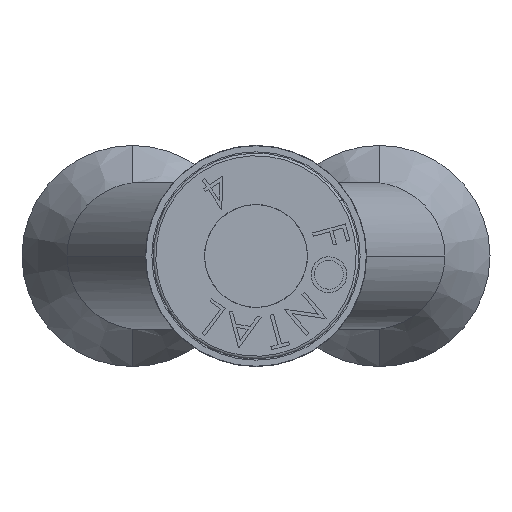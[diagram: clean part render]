
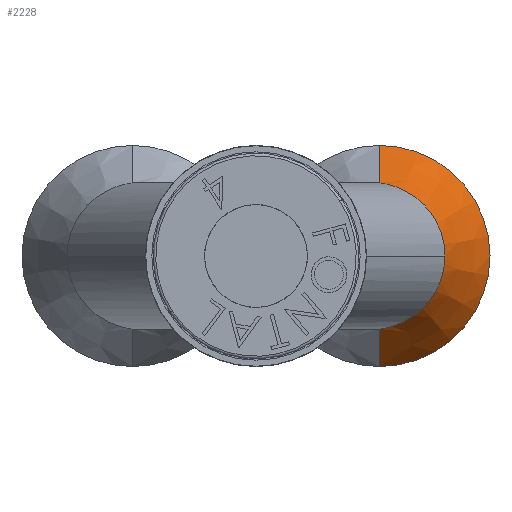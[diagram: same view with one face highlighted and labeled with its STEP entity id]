
A CAD part, front view. The second image highlights one B-rep face of the part: STEP entity #2228.
In plain terms, the highlighted conical face has half-angle 27 degrees and reference radius 4.3 mm.
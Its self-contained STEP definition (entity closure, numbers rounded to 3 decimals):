
#59 = CARTESIAN_POINT ( 'NONE',  ( 6.326, 14.696, -2.666 ) ) ;
#210 = ORIENTED_EDGE ( 'NONE', *, *, #3517, .T. ) ;
#330 = VERTEX_POINT ( 'NONE', #2934 ) ;
#436 = EDGE_CURVE ( 'NONE', #3813, #4718, #1933, .T. ) ;
#756 = DIRECTION ( 'NONE',  ( 0., 0., -1. ) ) ;
#778 = VECTOR ( 'NONE', #5505, 1000. ) ;
#791 = DIRECTION ( 'NONE',  ( 0., 0.891, 0.454 ) ) ;
#838 = ORIENTED_EDGE ( 'NONE', *, *, #436, .F. ) ;
#896 = CARTESIAN_POINT ( 'NONE',  ( 7.348, 14.465, 0. ) ) ;
#918 = LINE ( 'NONE', #2808, #778 ) ;
#977 = CARTESIAN_POINT ( 'NONE',  ( 7.348, 14.465, -1.526 ) ) ;
#1188 = CARTESIAN_POINT ( 'NONE',  ( 4.8, 17.903, 0. ) ) ;
#1428 = CARTESIAN_POINT ( 'NONE',  ( 4.8, 15.04, -2.841 ) ) ;
#1469 = ORIENTED_EDGE ( 'NONE', *, *, #3028, .F. ) ;
#1505 = CARTESIAN_POINT ( 'NONE',  ( 4.8, 17.903, 4.3 ) ) ;
#1510 = EDGE_CURVE ( 'NONE', #4718, #5458, #4684, .T. ) ;
#1600 = CARTESIAN_POINT ( 'NONE',  ( 7.348, 14.465, 0. ) ) ;
#1615 = DIRECTION ( 'NONE',  ( 0., 1., 0. ) ) ;
#1681 = DIRECTION ( 'NONE',  ( 0., 1., 0. ) ) ;
#1933 = LINE ( 'NONE', #4904, #3499 ) ;
#1997 =( BOUNDED_CURVE ( )  B_SPLINE_CURVE ( 3, ( #1600, #2004, #4774, #3796 ),
 .UNSPECIFIED., .F., .T. ) 
 B_SPLINE_CURVE_WITH_KNOTS ( ( 4, 4 ),
 ( 3.142, 4.597 ),
 .UNSPECIFIED. ) 
 CURVE ( )  GEOMETRIC_REPRESENTATION_ITEM ( )  RATIONAL_B_SPLINE_CURVE ( ( 1., 0.831, 0.831, 1. ) ) 
 REPRESENTATION_ITEM ( '' )  );
#2004 = CARTESIAN_POINT ( 'NONE',  ( 7.348, 14.465, 1.526 ) ) ;
#2050 = FACE_OUTER_BOUND ( 'NONE', #3273, .T. ) ;
#2228 = ADVANCED_FACE ( 'NONE', ( #2050 ), #5395, .T. ) ;
#2808 = CARTESIAN_POINT ( 'NONE',  ( 4.8, 17.903, -4.3 ) ) ;
#2934 = CARTESIAN_POINT ( 'NONE',  ( 7.348, 14.465, 0. ) ) ;
#3028 = EDGE_CURVE ( 'NONE', #4726, #330, #3059, .T. ) ;
#3059 =( BOUNDED_CURVE ( )  B_SPLINE_CURVE ( 3, ( #1428, #59, #977, #896 ),
 .UNSPECIFIED., .F., .T. ) 
 B_SPLINE_CURVE_WITH_KNOTS ( ( 4, 4 ),
 ( 1.686, 3.142 ),
 .UNSPECIFIED. ) 
 CURVE ( )  GEOMETRIC_REPRESENTATION_ITEM ( )  RATIONAL_B_SPLINE_CURVE ( ( 1., 0.831, 0.831, 1. ) ) 
 REPRESENTATION_ITEM ( '' )  );
#3273 = EDGE_LOOP ( 'NONE', ( #1469, #210, #4875, #838, #4588 ) ) ;
#3499 = VECTOR ( 'NONE', #791, 1000. ) ;
#3517 = EDGE_CURVE ( 'NONE', #4726, #5458, #918, .T. ) ;
#3702 = CARTESIAN_POINT ( 'NONE',  ( 4.8, 15.04, -2.841 ) ) ;
#3796 = CARTESIAN_POINT ( 'NONE',  ( 4.8, 15.04, 2.841 ) ) ;
#3813 = VERTEX_POINT ( 'NONE', #4512 ) ;
#3838 = AXIS2_PLACEMENT_3D ( 'NONE', #5831, #1681, #4866 ) ;
#4196 = EDGE_CURVE ( 'NONE', #330, #3813, #1997, .T. ) ;
#4390 = CARTESIAN_POINT ( 'NONE',  ( 4.8, 17.903, -4.3 ) ) ;
#4512 = CARTESIAN_POINT ( 'NONE',  ( 4.8, 15.04, 2.841 ) ) ;
#4588 = ORIENTED_EDGE ( 'NONE', *, *, #4196, .F. ) ;
#4670 = AXIS2_PLACEMENT_3D ( 'NONE', #1188, #1615, #756 ) ;
#4684 = CIRCLE ( 'NONE', #4670, 4.3 ) ;
#4718 = VERTEX_POINT ( 'NONE', #1505 ) ;
#4726 = VERTEX_POINT ( 'NONE', #3702 ) ;
#4774 = CARTESIAN_POINT ( 'NONE',  ( 6.326, 14.696, 2.666 ) ) ;
#4866 = DIRECTION ( 'NONE',  ( 0., 0., 1. ) ) ;
#4875 = ORIENTED_EDGE ( 'NONE', *, *, #1510, .F. ) ;
#4904 = CARTESIAN_POINT ( 'NONE',  ( 4.8, 17.903, 4.3 ) ) ;
#5395 = CONICAL_SURFACE ( 'NONE', #3838, 4.3, 0.471 ) ;
#5458 = VERTEX_POINT ( 'NONE', #4390 ) ;
#5505 = DIRECTION ( 'NONE',  ( 0., 0.891, -0.454 ) ) ;
#5831 = CARTESIAN_POINT ( 'NONE',  ( 4.8, 17.903, 0. ) ) ;
